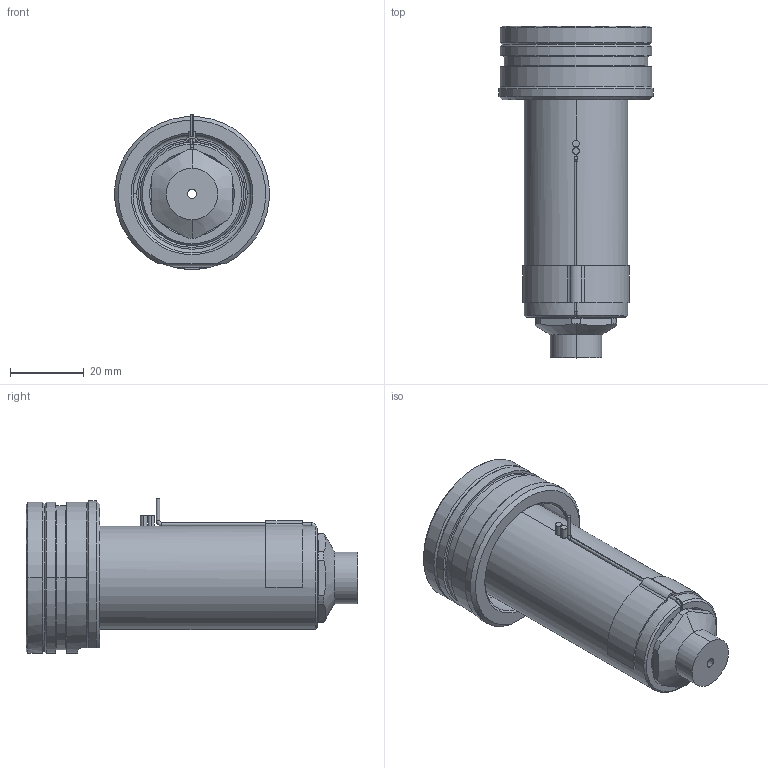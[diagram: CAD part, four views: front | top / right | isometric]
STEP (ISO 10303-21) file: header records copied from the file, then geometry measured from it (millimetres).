
FILE_DESCRIPTION((''),'2;1');
FILE_NAME('EO10_VG-FB_WR_070_SW','2024-02-19T13:34:50',('sundharh'),(''),'CREO PARAMETRIC BY PTC INC, 2023154','CREO PARAMETRIC BY PTC INC, 2023154','');
FILE_SCHEMA(('CONFIG_CONTROL_DESIGN'));
Length unit declared in the file: millimetre
Products named in the file (1): EO10_VG-FB_WR_070_SW
Bounding box: 41.85 x 90 x 42.02 mm (x, y, z)
Volume: 56201.8 mm3; surface area: 17467.7 mm2
Topology: 1 solids, 1 shells, 193 faces, 480 edges, 293 vertices
Faces by surface type: cylinder 71, plane 47, cone 37, torus 23, bspline 13, sphere 2
Entity records: 6644 total; most frequent: CARTESIAN_POINT 1962, DIRECTION 1035, ORIENTED_EDGE 956, EDGE_CURVE 478, AXIS2_PLACEMENT_3D 433, VERTEX_POINT 293, CIRCLE 253, EDGE_LOOP 209
